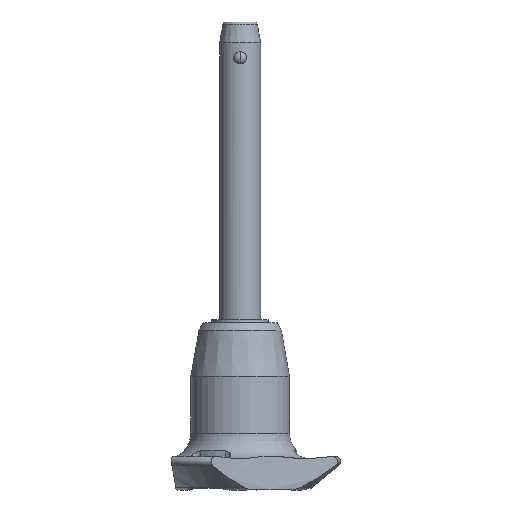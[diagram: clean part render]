
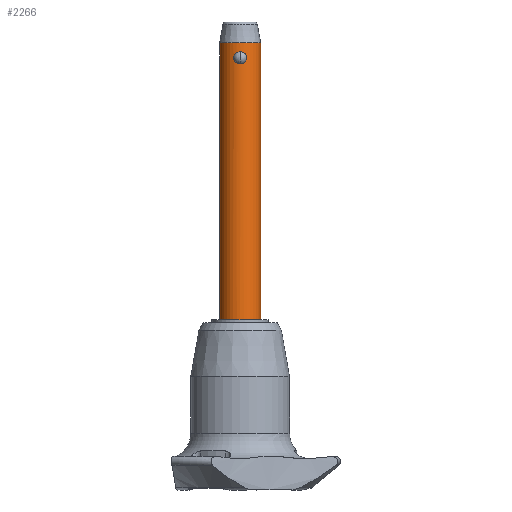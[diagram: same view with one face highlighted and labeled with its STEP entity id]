
A CAD part, front view. The second image highlights one B-rep face of the part: STEP entity #2266.
In plain terms, the highlighted cylindrical face has radius 4 mm (diameter 8 mm), a partial arc.
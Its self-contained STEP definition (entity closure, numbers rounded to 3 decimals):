
#85 = CARTESIAN_POINT ( 'NONE',  ( -0.325, -3.99, 2.371 ) ) ;
#129 = CARTESIAN_POINT ( 'NONE',  ( -0.768, -3.927, 0.228 ) ) ;
#173 = DIRECTION ( 'NONE',  ( 0., 0., -1. ) ) ;
#206 = EDGE_LOOP ( 'NONE', ( #2652, #531, #1837, #1290 ) ) ;
#285 = CIRCLE ( 'NONE', #774, 4. ) ;
#342 = CARTESIAN_POINT ( 'NONE',  ( -1.224, -3.808, 0.879 ) ) ;
#388 = CARTESIAN_POINT ( 'NONE',  ( 1.092, -3.848, 0.582 ) ) ;
#441 = DIRECTION ( 'NONE',  ( 0., 0., 1. ) ) ;
#469 = CARTESIAN_POINT ( 'NONE',  ( -4., 0., -50. ) ) ;
#475 = VECTOR ( 'NONE', #2023, 1000. ) ;
#508 = VERTEX_POINT ( 'NONE', #2410 ) ;
#531 = ORIENTED_EDGE ( 'NONE', *, *, #1539, .F. ) ;
#540 = CARTESIAN_POINT ( 'NONE',  ( 0., -4., 0. ) ) ;
#544 = ORIENTED_EDGE ( 'NONE', *, *, #1938, .F. ) ;
#552 = CARTESIAN_POINT ( 'NONE',  ( -1.266, -3.794, 1.12 ) ) ;
#578 = CARTESIAN_POINT ( 'NONE',  ( 1.266, -3.794, 1.035 ) ) ;
#604 = CARTESIAN_POINT ( 'NONE',  ( 1.132, -3.836, 0.651 ) ) ;
#704 = CARTESIAN_POINT ( 'NONE',  ( 0., 0., -50. ) ) ;
#735 = CARTESIAN_POINT ( 'NONE',  ( -1.005, -3.874, 0.447 ) ) ;
#748 = CARTESIAN_POINT ( 'NONE',  ( -0.162, -4., 0. ) ) ;
#770 = CARTESIAN_POINT ( 'NONE',  ( -1.101, -3.846, 0.579 ) ) ;
#774 = AXIS2_PLACEMENT_3D ( 'NONE', #2565, #1949, #1732 ) ;
#796 = CARTESIAN_POINT ( 'NONE',  ( 0.162, -4., 0. ) ) ;
#818 = CARTESIAN_POINT ( 'NONE',  ( -4., 0., 4.1 ) ) ;
#836 = VERTEX_POINT ( 'NONE', #469 ) ;
#887 = LINE ( 'NONE', #1865, #2637 ) ;
#941 = CARTESIAN_POINT ( 'NONE',  ( -0.945, -3.887, 2.008 ) ) ;
#981 = CARTESIAN_POINT ( 'NONE',  ( -0.827, -3.914, 2.117 ) ) ;
#983 = CYLINDRICAL_SURFACE ( 'NONE', #2092, 4. ) ;
#1001 = CARTESIAN_POINT ( 'NONE',  ( 0.627, -3.953, 0.143 ) ) ;
#1004 = EDGE_CURVE ( 'NONE', #1149, #508, #1839, .T. ) ;
#1013 = B_SPLINE_CURVE_WITH_KNOTS ( 'NONE', 3,
 ( #1405, #796, #1648, #1001, #2061, #2243, #1041, #388, #604, #1199, #578, #1224, #1426, #2687, #2674, #2492, #1208, #2265, #2711, #1627, #1637, #2482 ),
 .UNSPECIFIED., .F., .F.,
 ( 4, 2, 2, 2, 2, 2, 2, 2, 2, 2, 4 ),
 ( 0.004, 0.004, 0.005, 0.005, 0.005, 0.006, 0.006, 0.006, 0.007, 0.007, 0.008 ),
 .UNSPECIFIED. ) ;
#1041 = CARTESIAN_POINT ( 'NONE',  ( 0.999, -3.874, 0.452 ) ) ;
#1149 = VERTEX_POINT ( 'NONE', #1772 ) ;
#1151 = CARTESIAN_POINT ( 'NONE',  ( -0.762, -3.927, 2.166 ) ) ;
#1182 = CIRCLE ( 'NONE', #1274, 4. ) ;
#1191 = CARTESIAN_POINT ( 'NONE',  ( -1.133, -3.836, 1.747 ) ) ;
#1199 = CARTESIAN_POINT ( 'NONE',  ( 1.231, -3.806, 0.873 ) ) ;
#1208 = CARTESIAN_POINT ( 'NONE',  ( 1.005, -3.874, 1.953 ) ) ;
#1224 = CARTESIAN_POINT ( 'NONE',  ( 1.266, -3.794, 1.281 ) ) ;
#1274 = AXIS2_PLACEMENT_3D ( 'NONE', #2099, #173, #1662 ) ;
#1290 = ORIENTED_EDGE ( 'NONE', *, *, #2026, .T. ) ;
#1358 = CARTESIAN_POINT ( 'NONE',  ( -1.092, -3.848, 1.818 ) ) ;
#1392 = CARTESIAN_POINT ( 'NONE',  ( -0.625, -3.951, 2.25 ) ) ;
#1405 = CARTESIAN_POINT ( 'NONE',  ( 0., -4., 0. ) ) ;
#1409 = FACE_BOUND ( 'NONE', #2427, .T. ) ;
#1426 = CARTESIAN_POINT ( 'NONE',  ( 1.258, -3.797, 1.361 ) ) ;
#1494 = VERTEX_POINT ( 'NONE', #818 ) ;
#1539 = EDGE_CURVE ( 'NONE', #1149, #836, #1182, .T. ) ;
#1545 = DIRECTION ( 'NONE',  ( 1., 0., 0. ) ) ;
#1627 = CARTESIAN_POINT ( 'NONE',  ( 0.326, -3.99, 2.371 ) ) ;
#1637 = CARTESIAN_POINT ( 'NONE',  ( 0.164, -4., 2.4 ) ) ;
#1648 = CARTESIAN_POINT ( 'NONE',  ( 0.326, -3.99, 0.029 ) ) ;
#1662 = DIRECTION ( 'NONE',  ( 1., 0., 0. ) ) ;
#1698 = EDGE_CURVE ( 'NONE', #836, #1494, #887, .T. ) ;
#1713 = B_SPLINE_CURVE_WITH_KNOTS ( 'NONE', 3,
 ( #2206, #1995, #85, #2663, #1392, #1151, #981, #941, #2233, #1358, #1191, #1816, #2463, #552, #1777, #342, #2625, #770, #735, #129, #2195, #1827, #748, #540 ),
 .UNSPECIFIED., .F., .F.,
 ( 4, 2, 2, 2, 2, 2, 2, 2, 2, 2, 2, 4 ),
 ( 0., 0., 0.001, 0.001, 0.001, 0.001, 0.002, 0.002, 0.002, 0.003, 0.003, 0.004 ),
 .UNSPECIFIED. ) ;
#1732 = DIRECTION ( 'NONE',  ( 1., 0., 0. ) ) ;
#1772 = CARTESIAN_POINT ( 'NONE',  ( 4., 0., -50. ) ) ;
#1777 = CARTESIAN_POINT ( 'NONE',  ( -1.258, -3.797, 1.038 ) ) ;
#1816 = CARTESIAN_POINT ( 'NONE',  ( -1.231, -3.806, 1.527 ) ) ;
#1827 = CARTESIAN_POINT ( 'NONE',  ( -0.326, -3.99, 0.029 ) ) ;
#1837 = ORIENTED_EDGE ( 'NONE', *, *, #1004, .T. ) ;
#1839 = LINE ( 'NONE', #2007, #475 ) ;
#1865 = CARTESIAN_POINT ( 'NONE',  ( -4., 0., -50. ) ) ;
#1892 = CARTESIAN_POINT ( 'NONE',  ( 0., -4., 2.4 ) ) ;
#1938 = EDGE_CURVE ( 'NONE', #2642, #2178, #1013, .T. ) ;
#1949 = DIRECTION ( 'NONE',  ( 0., 0., -1. ) ) ;
#1995 = CARTESIAN_POINT ( 'NONE',  ( -0.164, -4., 2.4 ) ) ;
#2007 = CARTESIAN_POINT ( 'NONE',  ( 4., 0., -50. ) ) ;
#2023 = DIRECTION ( 'NONE',  ( 0., 0., 1. ) ) ;
#2026 = EDGE_CURVE ( 'NONE', #508, #1494, #285, .T. ) ;
#2061 = CARTESIAN_POINT ( 'NONE',  ( 0.768, -3.927, 0.228 ) ) ;
#2092 = AXIS2_PLACEMENT_3D ( 'NONE', #704, #2247, #1545 ) ;
#2099 = CARTESIAN_POINT ( 'NONE',  ( 0., 0., -50. ) ) ;
#2178 = VERTEX_POINT ( 'NONE', #1892 ) ;
#2195 = CARTESIAN_POINT ( 'NONE',  ( -0.628, -3.953, 0.143 ) ) ;
#2206 = CARTESIAN_POINT ( 'NONE',  ( 0., -4., 2.4 ) ) ;
#2233 = CARTESIAN_POINT ( 'NONE',  ( -0.998, -3.874, 1.949 ) ) ;
#2243 = CARTESIAN_POINT ( 'NONE',  ( 0.944, -3.887, 0.391 ) ) ;
#2247 = DIRECTION ( 'NONE',  ( 0., 0., 1. ) ) ;
#2260 = FACE_OUTER_BOUND ( 'NONE', #206, .T. ) ;
#2265 = CARTESIAN_POINT ( 'NONE',  ( 0.769, -3.927, 2.171 ) ) ;
#2266 = ADVANCED_FACE ( 'NONE', ( #2260, #1409 ), #983, .T. ) ;
#2298 = CARTESIAN_POINT ( 'NONE',  ( 0., -4., 0. ) ) ;
#2410 = CARTESIAN_POINT ( 'NONE',  ( 4., 0., 4.1 ) ) ;
#2427 = EDGE_LOOP ( 'NONE', ( #2491, #544 ) ) ;
#2463 = CARTESIAN_POINT ( 'NONE',  ( -1.266, -3.794, 1.364 ) ) ;
#2467 = EDGE_CURVE ( 'NONE', #2178, #2642, #1713, .T. ) ;
#2482 = CARTESIAN_POINT ( 'NONE',  ( 0., -4., 2.4 ) ) ;
#2491 = ORIENTED_EDGE ( 'NONE', *, *, #2467, .F. ) ;
#2492 = CARTESIAN_POINT ( 'NONE',  ( 1.101, -3.846, 1.82 ) ) ;
#2565 = CARTESIAN_POINT ( 'NONE',  ( 0., 0., 4.1 ) ) ;
#2625 = CARTESIAN_POINT ( 'NONE',  ( -1.199, -3.816, 0.802 ) ) ;
#2637 = VECTOR ( 'NONE', #441, 1000. ) ;
#2642 = VERTEX_POINT ( 'NONE', #2298 ) ;
#2652 = ORIENTED_EDGE ( 'NONE', *, *, #1698, .F. ) ;
#2663 = CARTESIAN_POINT ( 'NONE',  ( -0.553, -3.962, 2.285 ) ) ;
#2674 = CARTESIAN_POINT ( 'NONE',  ( 1.199, -3.816, 1.599 ) ) ;
#2687 = CARTESIAN_POINT ( 'NONE',  ( 1.224, -3.808, 1.52 ) ) ;
#2711 = CARTESIAN_POINT ( 'NONE',  ( 0.629, -3.953, 2.256 ) ) ;
